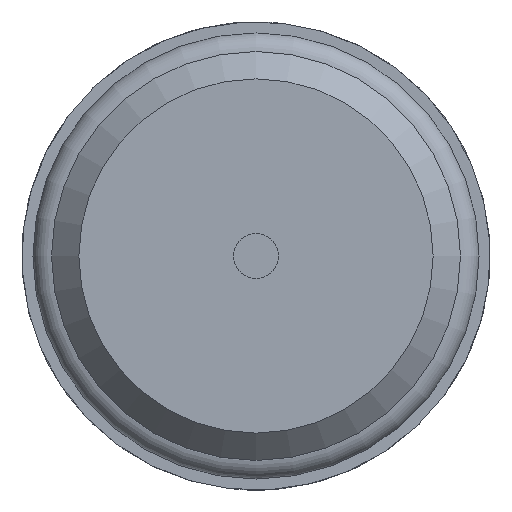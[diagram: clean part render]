
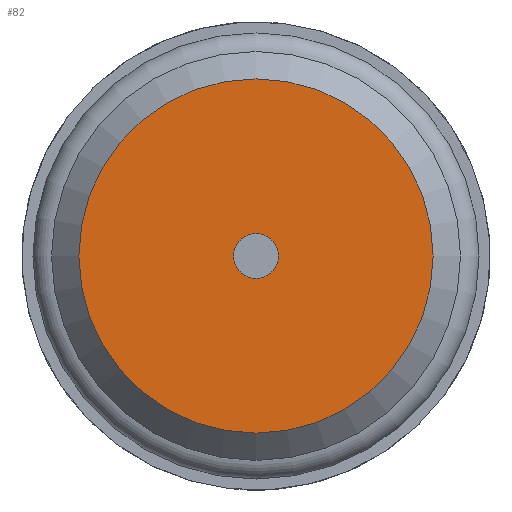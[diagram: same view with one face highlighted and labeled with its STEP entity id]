
A CAD part, front view. The second image highlights one B-rep face of the part: STEP entity #82.
In plain terms, the highlighted planar face has unit normal (0, -1, 0).
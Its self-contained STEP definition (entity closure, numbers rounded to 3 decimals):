
#82=ADVANCED_FACE('',(#447,#449),#451,.T.);
#447=FACE_BOUND('',#448,.T.);
#448=EDGE_LOOP('',(#3929));
#449=FACE_BOUND('',#450,.T.);
#450=EDGE_LOOP('',(#3930));
#451=PLANE('',#452);
#452=AXIS2_PLACEMENT_3D('',#453,#454,#455);
#453=CARTESIAN_POINT('',(0.,-13.1,0.));
#454=DIRECTION('',(0.,-1.,0.));
#455=DIRECTION('',(1.,0.,0.));
#3929=ORIENTED_EDGE('',*,*,#4850,.T.);
#3930=ORIENTED_EDGE('',*,*,#4806,.T.);
#4806=EDGE_CURVE('',#5253,#5253,#5254,.F.);
#4850=EDGE_CURVE('',#5317,#5317,#5318,.T.);
#5253=VERTEX_POINT('',#5890);
#5254=CIRCLE('',#5891,1.15);
#5317=VERTEX_POINT('',#6561);
#5318=CIRCLE('',#6562,9.078);
#5890=CARTESIAN_POINT('',(1.15,-13.1,0.));
#5891=AXIS2_PLACEMENT_3D('',#5892,#5893,#5894);
#5892=CARTESIAN_POINT('',(0.,-13.1,0.));
#5893=DIRECTION('',(0.,-1.,0.));
#5894=DIRECTION('',(1.,0.,0.));
#6561=CARTESIAN_POINT('',(0.,-13.1,9.078));
#6562=AXIS2_PLACEMENT_3D('',#6563,#6564,#6565);
#6563=CARTESIAN_POINT('',(0.,-13.1,0.));
#6564=DIRECTION('',(0.,-1.,0.));
#6565=DIRECTION('',(0.,0.,1.));
